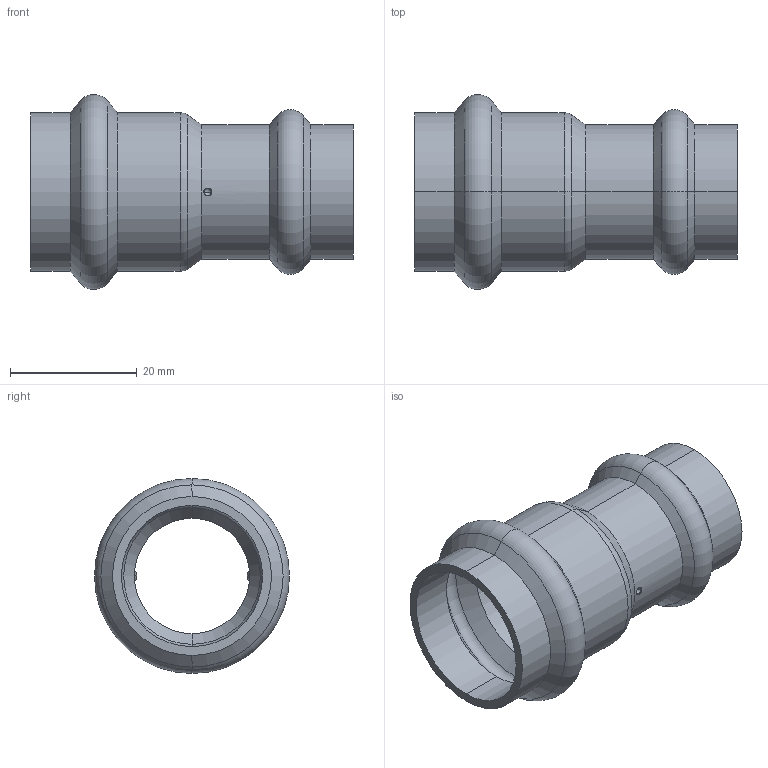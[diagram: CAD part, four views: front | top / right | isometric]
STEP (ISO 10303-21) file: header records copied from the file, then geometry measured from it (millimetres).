
FILE_DESCRIPTION (( 'STEP AP203' ), '1' );
FILE_NAME ('SP5240 22-18.STEP', '2017-04-24T08:38:53', ( '' ), ( '' ), 'SwSTEP 2.0', 'SolidWorks 2016', '' );
FILE_SCHEMA (( 'CONFIG_CONTROL_DESIGN' ));
Length unit declared in the file: millimetre
Products named in the file (1): SP5240 22-18
Bounding box: 51 x 30.8 x 30.8 mm (x, y, z)
Volume: 5593.5 mm3; surface area: 8200.2 mm2
Topology: 1 solids, 1 shells, 62 faces, 136 edges, 80 vertices
Faces by surface type: cone 24, cylinder 16, torus 12, sphere 8, plane 2
Entity records: 1881 total; most frequent: CARTESIAN_POINT 383, DIRECTION 342, ORIENTED_EDGE 272, AXIS2_PLACEMENT_3D 151, EDGE_CURVE 136, CIRCLE 88, VERTEX_POINT 80, EDGE_LOOP 68
